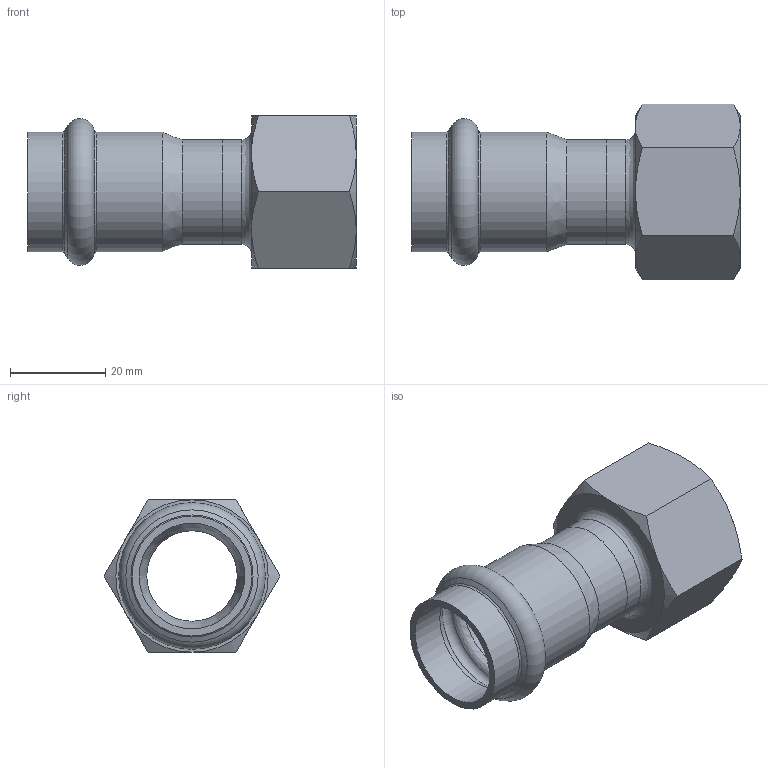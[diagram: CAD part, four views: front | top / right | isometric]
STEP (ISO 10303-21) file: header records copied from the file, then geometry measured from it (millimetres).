
FILE_DESCRIPTION((''),'2;1');
FILE_NAME('G:\Nirosan-Schmiedefeld\Technics\CAD\001 Serie 9.000\022\69270G2234H(2).stp','2018-08-28T08:56:42',('herberg'),(''),'Autodesk Inventor 2009','Autodesk Inventor 2009','');
FILE_SCHEMA(('AUTOMOTIVE_DESIGN { 1 0 10303 214 1 1 1 1 }'));
Length unit declared in the file: millimetre
Products named in the file (3): 69270G2234H(2); 69HM22P(1); IG2234(1)
Assembly tree (2 placements, depth 2):
  69270G2234H(2)
    69HM22P(1)
    IG2234(1)
Bounding box: 69 x 36.95 x 32 mm (x, y, z)
Volume: 15386.3 mm3; surface area: 12558.1 mm2
Topology: 2 solids, 2 shells, 45 faces, 92 edges, 53 vertices
Faces by surface type: cone 17, plane 11, bspline 8, cylinder 7, torus 2
Full cylindrical faces by diameter (mm): 19 x1, 22 x2, 22.15 x2, 25.15 x2
Entity records: 1324 total; most frequent: CARTESIAN_POINT 473, DIRECTION 166, ORIENTED_EDGE 136, AXIS2_PLACEMENT_3D 80, EDGE_LOOP 72, EDGE_CURVE 68, VERTEX_POINT 50, FACE_OUTER_BOUND 45
